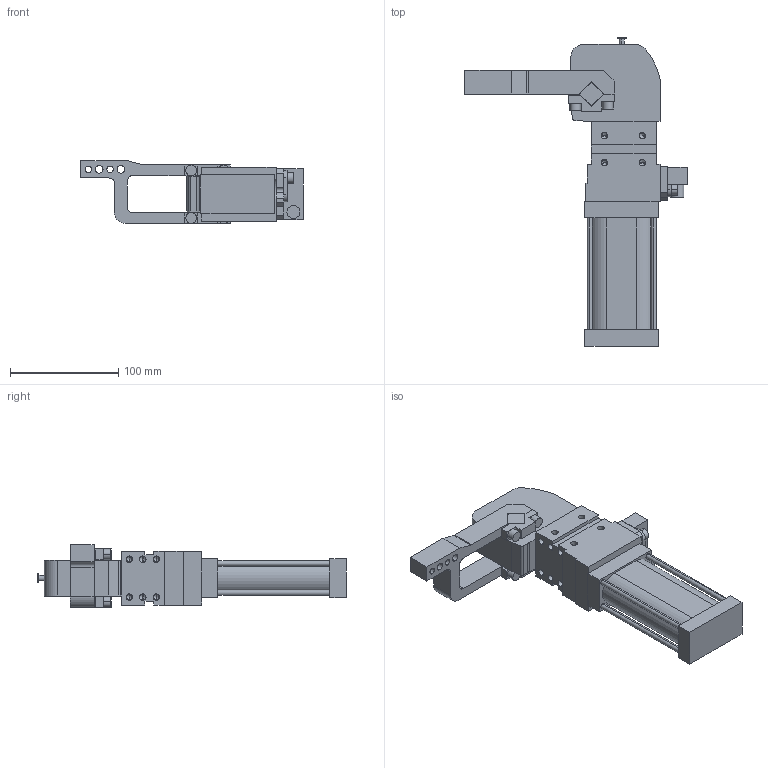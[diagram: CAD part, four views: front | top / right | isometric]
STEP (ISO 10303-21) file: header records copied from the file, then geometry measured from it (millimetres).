
FILE_DESCRIPTION (( 'STEP AP214' ), '1' );
FILE_NAME ('cpl40v2si1g_135.STEP', '2021-05-25T10:36:48', ( '' ), ( '' ), 'SwSTEP 2.0', 'SolidWorks 2021', '' );
FILE_SCHEMA (( 'AUTOMOTIVE_DESIGN' ));
Length unit declared in the file: millimetre
Products named in the file (5): piastra_blocchetto_cpl40; leva_v2s_cpl40; cpl40v2si1g_135; blocchetto_VEP_0_cpl40; meccanica_cpl40
Assembly tree (4 placements, depth 2):
  cpl40v2si1g_135
    meccanica_cpl40
    blocchetto_VEP_0_cpl40
    piastra_blocchetto_cpl40
    leva_v2s_cpl40
Bounding box: 205.5 x 285 x 58 mm (x, y, z)
Volume: 766996.9 mm3; surface area: 116235.2 mm2
Topology: 5 solids, 5 shells, 403 faces, 1025 edges, 639 vertices
Faces by surface type: plane 214, cylinder 141, cone 48
Entity records: 13408 total; most frequent: DIRECTION 2111, CARTESIAN_POINT 2028, ORIENTED_EDGE 1958, EDGE_CURVE 979, AXIS2_PLACEMENT_3D 722, VECTOR 667, LINE 667, VERTEX_POINT 639
